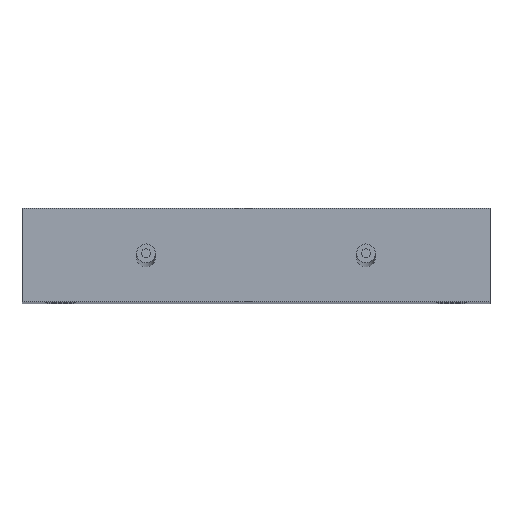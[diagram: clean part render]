
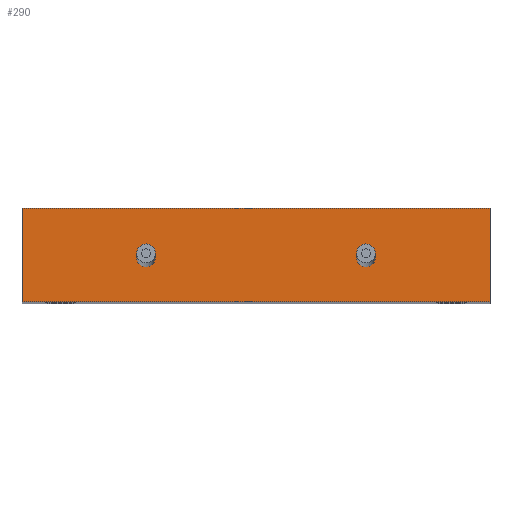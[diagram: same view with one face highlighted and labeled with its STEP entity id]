
A CAD part, top view. The second image highlights one B-rep face of the part: STEP entity #290.
In plain terms, the highlighted planar face has unit normal (0, 0, 1).
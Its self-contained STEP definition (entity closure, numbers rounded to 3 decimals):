
#13=LINE($,#440,#25);
#16=LINE($,#454,#28);
#19=LINE($,#460,#31);
#22=LINE($,#473,#34);
#25=VECTOR($,#365,20.);
#28=VECTOR($,#378,100.);
#31=VECTOR($,#383,20.);
#34=VECTOR($,#396,100.);
#45=PLANE($,#327);
#68=FACE_BOUND($,#119,.T.);
#69=FACE_BOUND($,#120,.T.);
#70=FACE_BOUND($,#121,.T.);
#119=EDGE_LOOP($,(#240));
#120=EDGE_LOOP($,(#241));
#121=EDGE_LOOP($,(#242,#243,#244,#245));
#125=CIRCLE($,#300,2.);
#129=CIRCLE($,#308,2.);
#141=VERTEX_POINT($,#420);
#145=VERTEX_POINT($,#432);
#146=VERTEX_POINT($,#436);
#148=VERTEX_POINT($,#439);
#154=VERTEX_POINT($,#453);
#156=VERTEX_POINT($,#459);
#165=EDGE_CURVE($,#141,#141,#125,.T.);
#169=EDGE_CURVE($,#145,#145,#129,.T.);
#171=EDGE_CURVE($,#148,#146,#13,.T.);
#178=EDGE_CURVE($,#154,#148,#16,.T.);
#181=EDGE_CURVE($,#156,#154,#19,.T.);
#188=EDGE_CURVE($,#146,#156,#22,.T.);
#240=ORIENTED_EDGE($,*,*,#165,.T.);
#241=ORIENTED_EDGE($,*,*,#169,.T.);
#242=ORIENTED_EDGE($,*,*,#188,.T.);
#243=ORIENTED_EDGE($,*,*,#181,.T.);
#244=ORIENTED_EDGE($,*,*,#178,.T.);
#245=ORIENTED_EDGE($,*,*,#171,.T.);
#290=ADVANCED_FACE($,(#68,#69,#70),#45,.T.);
#300=AXIS2_PLACEMENT_3D($,#421,#342,#343);
#308=AXIS2_PLACEMENT_3D($,#433,#358,#359);
#327=AXIS2_PLACEMENT_3D($,#480,#408,#409);
#342=DIRECTION('center_axis',(0.,0.,
-1.));
#343=DIRECTION('ref_axis',(-1.,0.,0.));
#358=DIRECTION('center_axis',(0.,0.,
-1.));
#359=DIRECTION('ref_axis',(-1.,0.,0.));
#365=DIRECTION($,(0.,1.,0.));
#378=DIRECTION($,(1.,0.,0.));
#383=DIRECTION($,(0.,-1.,0.));
#396=DIRECTION($,(-1.,0.,0.));
#408=DIRECTION('center_axis',(0.,0.,
1.));
#409=DIRECTION('ref_axis',(1.,0.,0.));
#420=CARTESIAN_POINT('',(46.302,0.284,126.656));
#421=CARTESIAN_POINT('Origin',(44.302,0.284,126.656));
#432=CARTESIAN_POINT('',(93.302,0.284,126.656));
#433=CARTESIAN_POINT('Origin',(91.302,0.284,126.656));
#436=CARTESIAN_POINT('',(117.802,10.784,126.656));
#439=CARTESIAN_POINT('',(117.802,-9.216,126.656));
#440=CARTESIAN_POINT($,(117.802,10.784,126.656));
#453=CARTESIAN_POINT('',(17.802,-9.216,126.656));
#454=CARTESIAN_POINT($,(117.802,-9.216,126.656));
#459=CARTESIAN_POINT('',(17.802,10.784,126.656));
#460=CARTESIAN_POINT($,(17.802,-9.216,126.656));
#473=CARTESIAN_POINT($,(17.802,10.784,126.656));
#480=CARTESIAN_POINT('Origin',(67.802,0.784,126.656));
